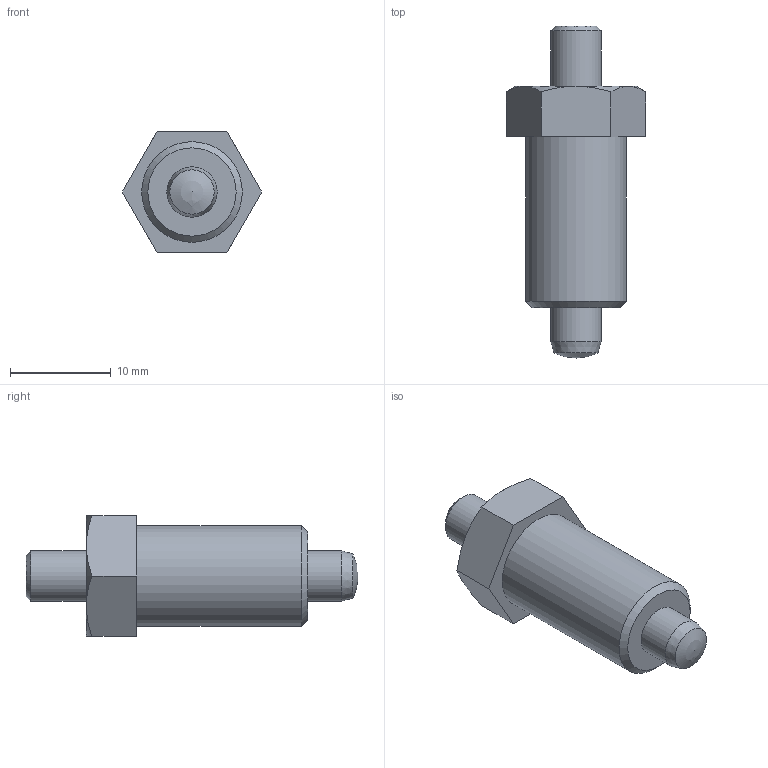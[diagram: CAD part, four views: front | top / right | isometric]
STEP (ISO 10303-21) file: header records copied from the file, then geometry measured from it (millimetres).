
FILE_DESCRIPTION( ( 'STEP AP203' ), '1' );
FILE_NAME( 'C:/Temp/Ganter_Step_05_03_2020/data/3_1/gn617_n/gn617n_g/Stainless Steel Indexing plunger GN 617-5-G-NI (deactivated).stp', '2020-03-12T08:43:10', ( 'License CC BY-ND 4.0' ), ( 'CADENAS' ), ' ', 'PARTsolutions', ' ' );
FILE_SCHEMA( ( 'CONFIG_CONTROL_DESIGN' ) );
Length unit declared in the file: millimetre
Products named in the file (3): Stainless Steel Indexing plunger GN 617-5-G-NI (deactivated); _STAINLESS STEEL - Indexing plunger GN 617-5-G-NI-2; _Indexing plunger GN 617-5-G-NI (0)-1
Assembly tree (2 placements, depth 2):
  Stainless Steel Indexing plunger GN 617-5-G-NI (deactivated)
    _STAINLESS STEEL - Indexing plunger GN 617-5-G-NI-2
    _Indexing plunger GN 617-5-G-NI (0)-1
Bounding box: 13.86 x 33 x 12 mm (x, y, z)
Volume: 2003.6 mm3; surface area: 2028.1 mm2
Topology: 2 solids, 2 shells, 31 faces, 60 edges, 37 vertices
Faces by surface type: plane 14, cone 9, cylinder 7, sphere 1
Full cylindrical faces by diameter (mm): 5 x4, 8 x2, 10 x1
Entity records: 864 total; most frequent: CARTESIAN_POINT 177, DIRECTION 126, ORIENTED_EDGE 94, AXIS2_PLACEMENT_3D 57, EDGE_LOOP 48, EDGE_CURVE 47, FACE_OUTER_BOUND 38, VERTEX_POINT 36
